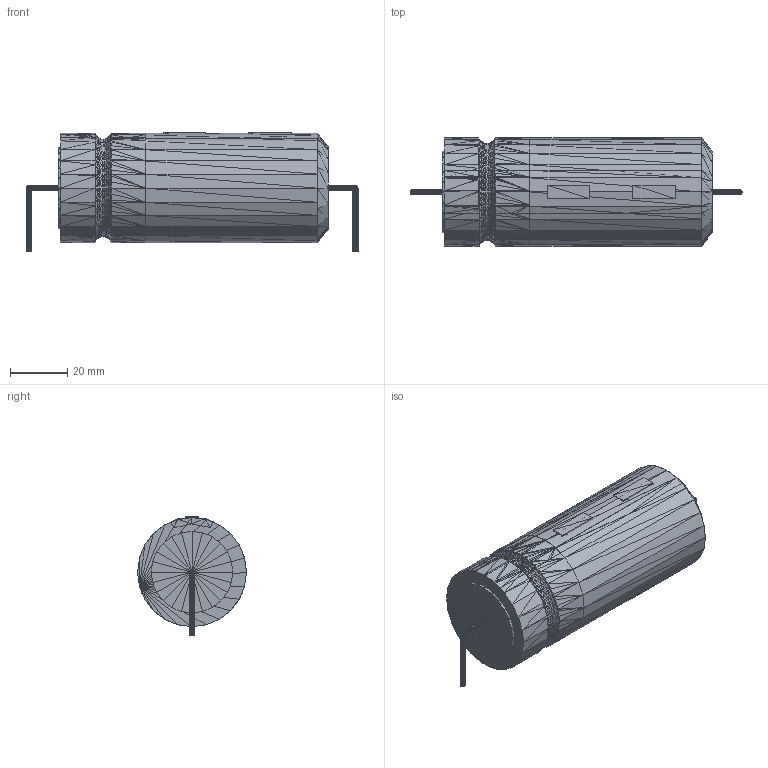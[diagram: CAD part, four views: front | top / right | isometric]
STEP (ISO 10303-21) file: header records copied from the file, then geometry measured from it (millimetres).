
FILE_DESCRIPTION(('HOOPS Exchange Step'),'2;1');
FILE_NAME('***.stp');
FILE_SCHEMA( ('AP242_MANAGED_MODEL_BASED_3D_ENGINEERING_MIM_LF {1 0 10303 442 1 1 4 }') );
Length unit declared in the file: inch
Products named in the file (16): AXPOLCAPXXLG_2; AXPOLCAPXXLG_3; AXPOLCAPXXLG_4; AXPOLCAPXXLG_5; AXPOLCAPXXLG_6; AXPOLCAPXXLG_7; AXPOLCAPXXLG_8; AXPOLCAPXXLG_9; AXPOLCAPXXLG_10; AXPOLCAPXXLG_11; AXPOLCAPXXLG_12; AXPOLCAPXXLG_13; AXPOLCAPXXLG_14; AXPOLCAPXXLG_15; AXPOLCAPXXLG_16; AXPOLCAPXXLG
Assembly tree (15 placements, depth 2):
  AXPOLCAPXXLG
    AXPOLCAPXXLG_2
    AXPOLCAPXXLG_3
    AXPOLCAPXXLG_4
    AXPOLCAPXXLG_5
    AXPOLCAPXXLG_6
    AXPOLCAPXXLG_7
    AXPOLCAPXXLG_8
    AXPOLCAPXXLG_9
    AXPOLCAPXXLG_10
    AXPOLCAPXXLG_11
    AXPOLCAPXXLG_12
    AXPOLCAPXXLG_13
    AXPOLCAPXXLG_14
    AXPOLCAPXXLG_15
    AXPOLCAPXXLG_16
Bounding box: 116.2 x 38.1 x 41.74 mm (x, y, z)
Volume: 107215.7 mm3; surface area: 24358.2 mm2
Topology: 14 solids, 16 shells, 3001 faces, 4512 edges, 1539 vertices
Faces by surface type: plane 3001
Entity records: 59336 total; most frequent: DIRECTION 10578, CARTESIAN_POINT 9084, ORIENTED_EDGE 9003, VECTOR 4512, LINE 4512, EDGE_CURVE 4512, AXIS2_PLACEMENT_3D 3033, PLANE 3001
